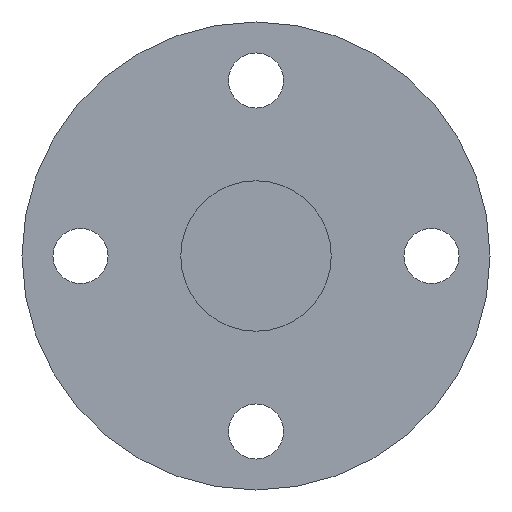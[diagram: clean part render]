
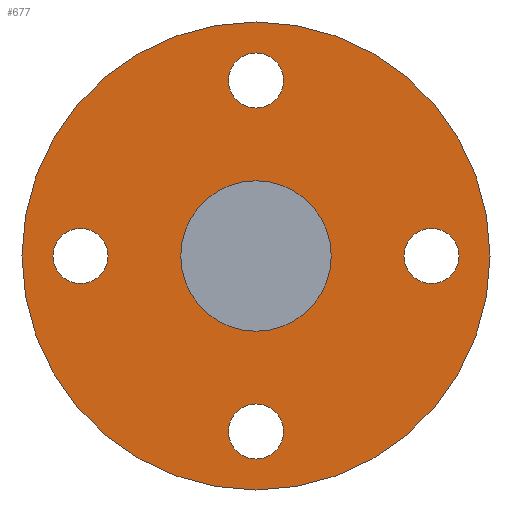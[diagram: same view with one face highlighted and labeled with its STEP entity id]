
A CAD part, left-side view. The second image highlights one B-rep face of the part: STEP entity #677.
In plain terms, the highlighted planar face has unit normal (-1, 0, 0).
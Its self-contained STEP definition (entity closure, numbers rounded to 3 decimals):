
#566=CARTESIAN_POINT('',(130.0,21.0,-3.3));
#567=VERTEX_POINT('',#566);
#568=CARTESIAN_POINT('',(130.0,21.0,0.));
#569=DIRECTION('',(1.0,0.0,0.0));
#570=DIRECTION('',(0.0,0.0,-1.0));
#571=AXIS2_PLACEMENT_3D('',#568,#569,#570);
#572=CIRCLE('',#571,3.3);
#573=EDGE_CURVE('',#567,#567,#572,.T.);
#586=CARTESIAN_POINT('',(130.0,-3.3,-21.0));
#587=VERTEX_POINT('',#586);
#588=CARTESIAN_POINT('',(130.0,0.,-21.0));
#589=DIRECTION('',(1.0,0.0,0.0));
#590=DIRECTION('',(0.0,-1.0,0.0));
#591=AXIS2_PLACEMENT_3D('',#588,#589,#590);
#592=CIRCLE('',#591,3.3);
#593=EDGE_CURVE('',#587,#587,#592,.T.);
#606=CARTESIAN_POINT('',(130.0,-21.0,3.3));
#607=VERTEX_POINT('',#606);
#608=CARTESIAN_POINT('',(130.0,-21.0,0.));
#609=DIRECTION('',(1.0,0.0,0.0));
#610=DIRECTION('',(0.0,0.0,1.0));
#611=AXIS2_PLACEMENT_3D('',#608,#609,#610);
#612=CIRCLE('',#611,3.3);
#613=EDGE_CURVE('',#607,#607,#612,.T.);
#626=CARTESIAN_POINT('',(130.0,3.3,21.0));
#627=VERTEX_POINT('',#626);
#628=CARTESIAN_POINT('',(130.0,0.0,21.0));
#629=DIRECTION('',(1.0,0.0,0.0));
#630=DIRECTION('',(0.0,1.0,0.0));
#631=AXIS2_PLACEMENT_3D('',#628,#629,#630);
#632=CIRCLE('',#631,3.3);
#633=EDGE_CURVE('',#627,#627,#632,.T.);
#638=CARTESIAN_POINT('',(130.0,0.0,18.5));
#639=DIRECTION('',(-1.0,0.0,0.0));
#640=DIRECTION('',(0.0,0.0,1.0));
#641=AXIS2_PLACEMENT_3D('',#638,#639,#640);
#642=PLANE('',#641);
#643=CARTESIAN_POINT('',(130.0,0.0,28.));
#644=VERTEX_POINT('',#643);
#645=CARTESIAN_POINT('',(130.0,0.0,0.0));
#646=DIRECTION('',(-1.0,0.0,0.0));
#647=DIRECTION('',(0.0,0.0,1.0));
#648=AXIS2_PLACEMENT_3D('',#645,#646,#647);
#649=CIRCLE('',#648,28.);
#650=EDGE_CURVE('',#644,#644,#649,.T.);
#651=ORIENTED_EDGE('',*,*,#650,.T.);
#652=EDGE_LOOP('',(#651));
#653=FACE_OUTER_BOUND('',#652,.T.);
#654=ORIENTED_EDGE('',*,*,#573,.T.);
#655=EDGE_LOOP('',(#654));
#656=FACE_BOUND('',#655,.T.);
#657=ORIENTED_EDGE('',*,*,#593,.T.);
#658=EDGE_LOOP('',(#657));
#659=FACE_BOUND('',#658,.T.);
#660=ORIENTED_EDGE('',*,*,#613,.T.);
#661=EDGE_LOOP('',(#660));
#662=FACE_BOUND('',#661,.T.);
#663=ORIENTED_EDGE('',*,*,#633,.T.);
#664=EDGE_LOOP('',(#663));
#665=FACE_BOUND('',#664,.T.);
#666=CARTESIAN_POINT('',(130.0,0.0,9.));
#667=VERTEX_POINT('',#666);
#668=CARTESIAN_POINT('',(130.0,0.0,0.0));
#669=DIRECTION('',(-1.0,0.0,0.0));
#670=DIRECTION('',(0.0,0.0,1.0));
#671=AXIS2_PLACEMENT_3D('',#668,#669,#670);
#672=CIRCLE('',#671,9.);
#673=EDGE_CURVE('',#667,#667,#672,.T.);
#674=ORIENTED_EDGE('',*,*,#673,.F.);
#675=EDGE_LOOP('',(#674));
#676=FACE_BOUND('',#675,.T.);
#677=ADVANCED_FACE('',(#653,#656,#659,#662,#665,#676),#642,.T.);
